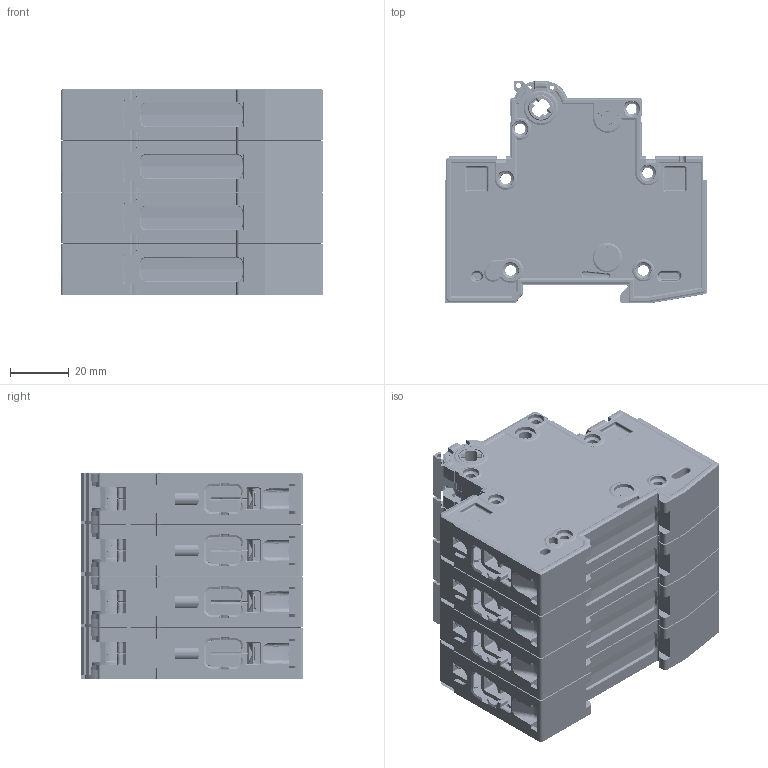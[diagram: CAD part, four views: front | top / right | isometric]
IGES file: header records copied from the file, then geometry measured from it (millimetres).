
Start section: SolidWorks IGES file using analytic representation for surfaces
Global section: file name: U:\14_RD\05_Technical_office\04_Office\Hrdinova\3D modely - IGES\Minia\AVN-DC-63-4.IGS; native system: SolidWorks 2011; preprocessor: SolidWorks 2011; author: adhrja3; date: 170615.072328; units: millimetre
Bounding box: 89.8 x 76.03 x 70.5 mm (x, y, z)
Surface area: 161470.7 mm2 (no closed solid volume)
Topology: 0 solids, 0 shells, 15283 faces, 127040 edges, 126938 vertices
Faces by surface type: bspline 9056, revolution 6227
